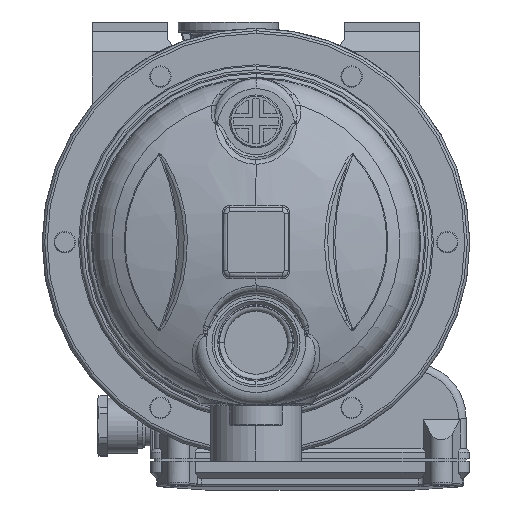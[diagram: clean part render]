
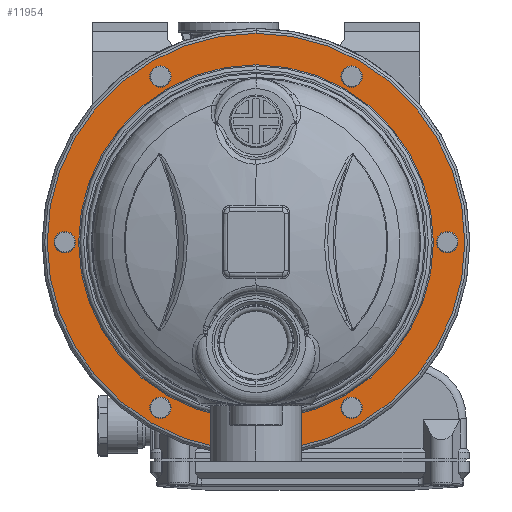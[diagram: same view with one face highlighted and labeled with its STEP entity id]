
A CAD part, left-side view. The second image highlights one B-rep face of the part: STEP entity #11954.
In plain terms, the highlighted planar face has unit normal (-1, 0, 0).
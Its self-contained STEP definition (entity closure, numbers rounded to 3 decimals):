
#6229=CARTESIAN_POINT('',(-7.,0.,0.));
#6230=DIRECTION('',(1.,0.,0.));
#6231=DIRECTION('',(0.,-1.,0.));
#6232=AXIS2_PLACEMENT_3D('',#6229,#6230,#6231);
#6237=CARTESIAN_POINT('',(-7.,0.,0.));
#6238=DIRECTION('',(1.,0.,0.));
#6239=DIRECTION('',(0.,1.,0.));
#6240=AXIS2_PLACEMENT_3D('',#6237,#6238,#6239);
#6245=CARTESIAN_POINT('',(-7.,0.,0.));
#6246=DIRECTION('',(-1.,0.,0.));
#6247=DIRECTION('',(0.,1.,0.));
#6248=AXIS2_PLACEMENT_3D('',#6245,#6246,#6247);
#6253=CARTESIAN_POINT('',(-7.,0.,0.));
#6254=DIRECTION('',(-1.,0.,0.));
#6255=DIRECTION('',(0.,-1.,0.));
#6256=AXIS2_PLACEMENT_3D('',#6253,#6254,#6255);
#6261=CARTESIAN_POINT('',(-7.,65.818,38.));
#6262=DIRECTION('',(-1.,0.,0.));
#6263=DIRECTION('',(0.,0.,1.));
#6264=AXIS2_PLACEMENT_3D('',#6261,#6262,#6263);
#6269=CARTESIAN_POINT('',(-7.,65.818,38.));
#6270=DIRECTION('',(-1.,0.,0.));
#6271=DIRECTION('',(0.,0.,-1.));
#6272=AXIS2_PLACEMENT_3D('',#6269,#6270,#6271);
#6277=CARTESIAN_POINT('',(-7.,0.,76.));
#6278=DIRECTION('',(-1.,0.,0.));
#6279=DIRECTION('',(0.,-0.866,0.5));
#6280=AXIS2_PLACEMENT_3D('',#6277,#6278,#6279);
#6285=CARTESIAN_POINT('',(-7.,0.,76.));
#6286=DIRECTION('',(-1.,0.,0.));
#6287=DIRECTION('',(0.,0.866,-0.5));
#6288=AXIS2_PLACEMENT_3D('',#6285,#6286,#6287);
#6293=CARTESIAN_POINT('',(-7.,-65.818,38.));
#6294=DIRECTION('',(-1.,0.,0.));
#6295=DIRECTION('',(0.,-0.866,-0.5));
#6296=AXIS2_PLACEMENT_3D('',#6293,#6294,#6295);
#6301=CARTESIAN_POINT('',(-7.,-65.818,38.));
#6302=DIRECTION('',(-1.,0.,0.));
#6303=DIRECTION('',(0.,0.866,0.5));
#6304=AXIS2_PLACEMENT_3D('',#6301,#6302,#6303);
#6309=CARTESIAN_POINT('',(-7.,-65.818,-38.));
#6310=DIRECTION('',(-1.,0.,0.));
#6311=DIRECTION('',(0.,0.,-1.));
#6312=AXIS2_PLACEMENT_3D('',#6309,#6310,#6311);
#6317=CARTESIAN_POINT('',(-7.,-65.818,-38.));
#6318=DIRECTION('',(-1.,0.,0.));
#6319=DIRECTION('',(0.,0.,1.));
#6320=AXIS2_PLACEMENT_3D('',#6317,#6318,#6319);
#6325=CARTESIAN_POINT('',(-7.,0.,-76.));
#6326=DIRECTION('',(-1.,0.,0.));
#6327=DIRECTION('',(0.,0.866,-0.5));
#6328=AXIS2_PLACEMENT_3D('',#6325,#6326,#6327);
#6333=CARTESIAN_POINT('',(-7.,0.,-76.));
#6334=DIRECTION('',(-1.,0.,0.));
#6335=DIRECTION('',(0.,-0.866,0.5));
#6336=AXIS2_PLACEMENT_3D('',#6333,#6334,#6335);
#6341=CARTESIAN_POINT('',(-7.,65.818,-38.));
#6342=DIRECTION('',(-1.,0.,0.));
#6343=DIRECTION('',(0.,0.866,0.5));
#6344=AXIS2_PLACEMENT_3D('',#6341,#6342,#6343);
#6349=CARTESIAN_POINT('',(-7.,65.818,-38.));
#6350=DIRECTION('',(-1.,0.,0.));
#6351=DIRECTION('',(0.,-0.866,-0.5));
#6352=AXIS2_PLACEMENT_3D('',#6349,#6350,#6351);
#11386=CARTESIAN_POINT('',(-7.,83.,0.));
#11387=CARTESIAN_POINT('',(-7.,-83.,0.));
#11388=VERTEX_POINT('',#11386);
#11389=VERTEX_POINT('',#11387);
#11432=CARTESIAN_POINT('',(-7.,65.818,42.25));
#11433=CARTESIAN_POINT('',(-7.,65.818,33.75));
#11434=VERTEX_POINT('',#11432);
#11435=VERTEX_POINT('',#11433);
#11593=CARTESIAN_POINT('',(-7.,-3.681,78.125));
#11594=CARTESIAN_POINT('',(-7.,3.681,73.875));
#11595=VERTEX_POINT('',#11593);
#11596=VERTEX_POINT('',#11594);
#11617=CARTESIAN_POINT('',(-7.,-69.499,35.875));
#11618=CARTESIAN_POINT('',(-7.,-62.137,40.125));
#11619=VERTEX_POINT('',#11617);
#11620=VERTEX_POINT('',#11618);
#11641=CARTESIAN_POINT('',(-7.,-65.818,-42.25));
#11642=CARTESIAN_POINT('',(-7.,-65.818,-33.75));
#11643=VERTEX_POINT('',#11641);
#11644=VERTEX_POINT('',#11642);
#11665=CARTESIAN_POINT('',(-7.,3.681,-78.125));
#11666=CARTESIAN_POINT('',(-7.,-3.681,-73.875));
#11667=VERTEX_POINT('',#11665);
#11668=VERTEX_POINT('',#11666);
#11689=CARTESIAN_POINT('',(-7.,69.499,-35.875));
#11690=CARTESIAN_POINT('',(-7.,62.137,-40.125));
#11691=VERTEX_POINT('',#11689);
#11692=VERTEX_POINT('',#11690);
#11725=CARTESIAN_POINT('',(-7.,-70.5,0.));
#11726=CARTESIAN_POINT('',(-7.,70.5,0.));
#11727=VERTEX_POINT('',#11725);
#11728=VERTEX_POINT('',#11726);
#11902=CARTESIAN_POINT('',(-7.,0.,0.));
#11903=DIRECTION('',(1.,0.,0.));
#11904=DIRECTION('',(0.,-1.,0.));
#11905=AXIS2_PLACEMENT_3D('',#11902,#11903,#11904);
#11906=PLANE('',#11905);
#11908=ORIENTED_EDGE('',*,*,#11907,.F.);
#11909=ORIENTED_EDGE('',*,*,#11892,.F.);
#11910=EDGE_LOOP('',(#11908,#11909));
#11911=FACE_OUTER_BOUND('',#11910,.F.);
#11913=ORIENTED_EDGE('',*,*,#11912,.F.);
#11915=ORIENTED_EDGE('',*,*,#11914,.F.);
#11916=EDGE_LOOP('',(#11913,#11915));
#11917=FACE_BOUND('',#11916,.F.);
#11919=ORIENTED_EDGE('',*,*,#11918,.T.);
#11921=ORIENTED_EDGE('',*,*,#11920,.T.);
#11922=EDGE_LOOP('',(#11919,#11921));
#11923=FACE_BOUND('',#11922,.F.);
#11925=ORIENTED_EDGE('',*,*,#11924,.T.);
#11927=ORIENTED_EDGE('',*,*,#11926,.T.);
#11928=EDGE_LOOP('',(#11925,#11927));
#11929=FACE_BOUND('',#11928,.F.);
#11931=ORIENTED_EDGE('',*,*,#11930,.T.);
#11933=ORIENTED_EDGE('',*,*,#11932,.T.);
#11934=EDGE_LOOP('',(#11931,#11933));
#11935=FACE_BOUND('',#11934,.F.);
#11937=ORIENTED_EDGE('',*,*,#11936,.T.);
#11939=ORIENTED_EDGE('',*,*,#11938,.T.);
#11940=EDGE_LOOP('',(#11937,#11939));
#11941=FACE_BOUND('',#11940,.F.);
#11943=ORIENTED_EDGE('',*,*,#11942,.T.);
#11945=ORIENTED_EDGE('',*,*,#11944,.T.);
#11946=EDGE_LOOP('',(#11943,#11945));
#11947=FACE_BOUND('',#11946,.F.);
#11949=ORIENTED_EDGE('',*,*,#11948,.T.);
#11951=ORIENTED_EDGE('',*,*,#11950,.T.);
#11952=EDGE_LOOP('',(#11949,#11951));
#11953=FACE_BOUND('',#11952,.F.);
#6233=CIRCLE('',#6232,70.5);
#6241=CIRCLE('',#6240,70.5);
#6249=CIRCLE('',#6248,83.);
#6257=CIRCLE('',#6256,83.);
#6265=CIRCLE('',#6264,4.25);
#6273=CIRCLE('',#6272,4.25);
#6281=CIRCLE('',#6280,4.25);
#6289=CIRCLE('',#6288,4.25);
#6297=CIRCLE('',#6296,4.25);
#6305=CIRCLE('',#6304,4.25);
#6313=CIRCLE('',#6312,4.25);
#6321=CIRCLE('',#6320,4.25);
#6329=CIRCLE('',#6328,4.25);
#6337=CIRCLE('',#6336,4.25);
#6345=CIRCLE('',#6344,4.25);
#6353=CIRCLE('',#6352,4.25);
#11892=EDGE_CURVE('',#11389,#11388,#6257,.T.);
#11907=EDGE_CURVE('',#11388,#11389,#6249,.T.);
#11912=EDGE_CURVE('',#11727,#11728,#6233,.T.);
#11914=EDGE_CURVE('',#11728,#11727,#6241,.T.);
#11918=EDGE_CURVE('',#11434,#11435,#6265,.T.);
#11920=EDGE_CURVE('',#11435,#11434,#6273,.T.);
#11924=EDGE_CURVE('',#11595,#11596,#6281,.T.);
#11926=EDGE_CURVE('',#11596,#11595,#6289,.T.);
#11930=EDGE_CURVE('',#11619,#11620,#6297,.T.);
#11932=EDGE_CURVE('',#11620,#11619,#6305,.T.);
#11936=EDGE_CURVE('',#11643,#11644,#6313,.T.);
#11938=EDGE_CURVE('',#11644,#11643,#6321,.T.);
#11942=EDGE_CURVE('',#11667,#11668,#6329,.T.);
#11944=EDGE_CURVE('',#11668,#11667,#6337,.T.);
#11948=EDGE_CURVE('',#11691,#11692,#6345,.T.);
#11950=EDGE_CURVE('',#11692,#11691,#6353,.T.);
#11954=ADVANCED_FACE('',(#11911,#11917,#11923,#11929,#11935,#11941,#11947,
#11953),#11906,.F.);
